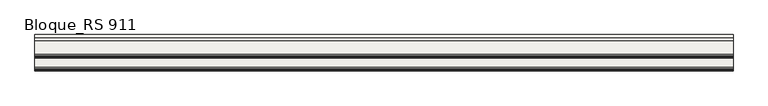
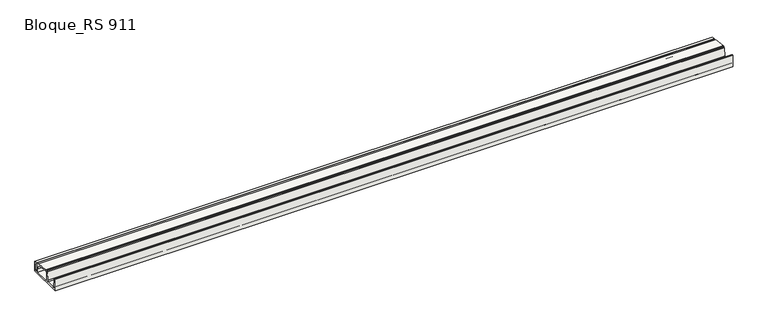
"""IFC4 building model written with IfcOpenShell, lengths in millimetres: slab geometry, ROSA GRES_RS 911 : Bloque_RS 911."""

from ifc_helpers import new_model, si_unit, point, frame, frame_2d, origin, place, context, project, spatial, polyline, circle_curve, trimmed, segment, composite_curve, outline, extrude, source, transform, mapped, element, save


def bloque_rs_911_adb8e3b5(model_context):
    return source(origin(), model_context, "Body", "SweptSolid", [
        extrude(outline(composite_curve([segment(polyline([(-12.836227, 1.7539108), (-626.836227, 1.7539108), (-626.836227, 216.3460936), (-616.836227, 216.3460936), (-616.836227, 206.3460936), (-598.836227, 206.3460936), (-587.1239808, 55.2086635)]), True, "CONTINUOUS"), segment(trimmed(circle_curve(frame_2d((-567.1837649, 56.7539108)), 20.0), [point((-587.1239808, 55.2086635))], [point((-567.1837649, 36.7539108))], True, "CARTESIAN"), True, "CONTINUOUS"), segment(polyline([(-567.1837649, 36.7539108), (-413.4886891, 36.7539108)]), True, "CONTINUOUS"), segment(trimmed(circle_curve(frame_2d((-413.4886891, 56.7539108)), 20.0), [point((-413.4886891, 36.7539108))], [point((-393.5484732, 55.2086635))], True, "CARTESIAN"), True, "CONTINUOUS"), segment(polyline([(-393.5484732, 55.2086635), (-381.836227, 206.3460936), (-363.836227, 206.3460936), (-363.836227, 216.3460936), (-343.836227, 216.3460936), (-343.836227, 214.7181867), (-123.836227, 196.8112099), (-125.1172881, 181.0724591), (-72.836227, 176.8170239), (-72.836227, 173.8170239), (-67.836227, 173.8170239), (-67.836227, 176.4100471), (-12.836227, 171.9333029), (-12.836227, 1.7539108)]), True, "CONTINUOUS")], self_intersect=False), holes=[composite_curve([segment(polyline([(-67.836227, 140.6431347), (-67.836227, 36.7539108)]), True, "CONTINUOUS"), segment(trimmed(circle_curve(frame_2d((-59.836227, 36.7539108)), 8.0), [point((-67.836227, 36.7539108))], [point((-59.836227, 28.7539108))], True, "CARTESIAN"), True, "CONTINUOUS"), segment(polyline([(-59.836227, 28.7539108), (-47.836227, 28.7539108)]), True, "CONTINUOUS"), segment(trimmed(circle_curve(frame_2d((-47.836227, 36.7539108)), 8.0), [point((-47.836227, 28.7539108))], [point((-39.836227, 36.7539108))], True, "CARTESIAN"), True, "CONTINUOUS"), segment(polyline([(-39.836227, 36.7539108), (-39.836227, 139.6663905)]), True, "CONTINUOUS"), segment(trimmed(circle_curve(frame_2d((-47.836227, 139.6663905)), 8.0), [point((-39.836227, 139.6663905))], [point((-47.1872106, 147.6400206))], True, "CARTESIAN"), True, "CONTINUOUS"), segment(polyline([(-47.1872106, 147.6400206), (-59.1872106, 148.6167648)]), True, "CONTINUOUS"), segment(trimmed(circle_curve(frame_2d((-59.836227, 140.6431347)), 8.0), [point((-59.1872106, 148.6167648))], [point((-67.836227, 140.6431347))], True, "CARTESIAN"), True, "CONTINUOUS")], self_intersect=False), composite_curve([segment(polyline([(-180.4105134, 169.2541533), (-334.6837717, 181.811279)]), True, "CONTINUOUS"), segment(trimmed(circle_curve(frame_2d((-336.3063127, 161.8772036)), 20.0), [point((-334.6837717, 181.811279))], [point((-356.3063127, 161.8772036))], True, "CARTESIAN"), True, "CONTINUOUS"), segment(polyline([(-356.3063127, 161.8772036), (-356.3063127, 28.7539108), (-102.3063127, 28.7539108), (-102.3063127, 84.534333)]), True, "CONTINUOUS"), segment(trimmed(circle_curve(frame_2d((-187.3063127, 84.534333)), 85.0), [point((-102.3063127, 84.534333))], [point((-180.4105134, 169.2541533))], True, "CARTESIAN"), True, "CONTINUOUS")], self_intersect=False)]), frame((0.0, 0.0, 0.0), z_axis=(1.0, 0.0, 0.0), x_axis=(0.0, 1.0, 0.0)), (0.0, 0.0, 1.0), 11791.977076),
    ])


if __name__ == "__main__":
    model = new_model("IFC4")
    model_context = context("Model", 3, world=origin())
    ifc_project = project(units=[si_unit("LENGTHUNIT", "METRE", prefix="MILLI")], contexts=[model_context])
    site = spatial("IfcSite", under=ifc_project)
    building = spatial("IfcBuilding", under=site)
    placement = place(None, origin())
    bloque_rs_911_shape = bloque_rs_911_adb8e3b5(model_context)
    element("IfcSlab", 1, ObjectType="ROSA GRES_RS 911 : Bloque_RS 911", at=placement, inside=building, context=model_context, shape_type="MappedRepresentation", body=[
        mapped(bloque_rs_911_shape, transform((0.0, 0.0, 0.0), x_axis=(1.0, 0.0, 0.0), y_axis=(0.0, 1.0, 0.0), z_axis=(0.0, 0.0, 1.0))),
    ])
    save(model, "model.ifc")
